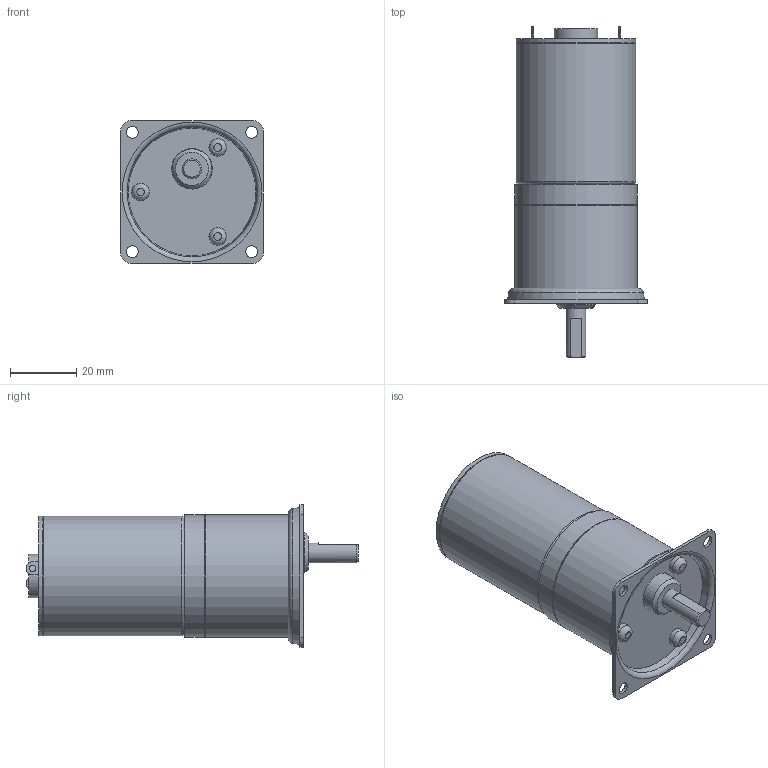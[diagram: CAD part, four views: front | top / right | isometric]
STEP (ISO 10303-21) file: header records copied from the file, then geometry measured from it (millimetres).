
FILE_DESCRIPTION((''),'2;1');
FILE_NAME('C:\Documents and Settings\SSEGAWA\デスクトップ\TP-3644D-PHM-5.STP','2013-07-25T17:59:06',('SSEGAWA'),(''),'Autodesk Inventor 2010','Autodesk Inventor 2010','');
FILE_SCHEMA(('CONFIG_CONTROL_DESIGN'));
Length unit declared in the file: millimetre
Products named in the file (1): tp_3644dh_phm-5_Shrinkwrap_1
Bounding box: 43 x 100.1 x 43 mm (x, y, z)
Volume: 81763.9 mm3; surface area: 15028.4 mm2
Topology: 1 solids, 9 shells, 97 faces, 203 edges, 136 vertices
Faces by surface type: plane 42, cylinder 25, bspline 23, cone 4, torus 3
Full cylindrical faces by diameter (mm): 3 x1, 3.5 x1, 5.3 x3, 6 x1, 12 x1, 12.2 x1, 13 x1, 35.6 x1, 36 x2, 36.6 x1, 37 x2
Entity records: 2693 total; most frequent: CARTESIAN_POINT 819, DIRECTION 371, ORIENTED_EDGE 268, EDGE_LOOP 165, AXIS2_PLACEMENT_3D 164, EDGE_CURVE 134, VERTEX_POINT 111, STYLED_ITEM 98
